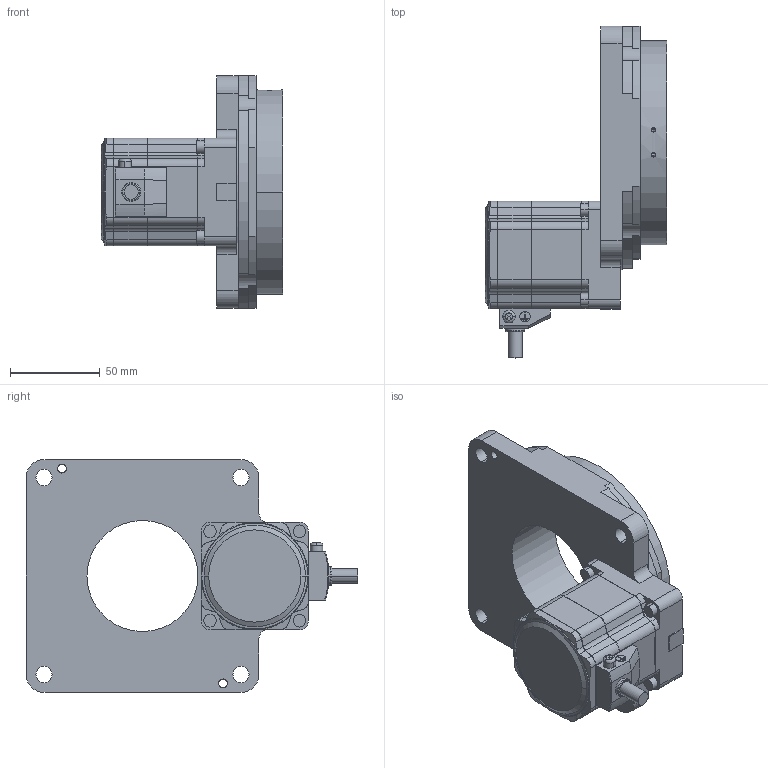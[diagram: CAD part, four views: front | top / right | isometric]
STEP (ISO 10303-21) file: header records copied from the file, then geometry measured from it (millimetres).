
FILE_DESCRIPTION( ( '' ), '1' );
FILE_NAME( 'Z:/14ＣＡＤ/01_CAD業務フォルダ/12_STEP書き出し/05_STEPファイル名の変更作業/02_ファイル名変換の作業場/■手動で書き出し_DG2/DG130R-ARAA-1(1)→D2855.stp', '2013-01-08T00:55:31', ( '' ), ( '' ), ' ', ' ', ' ' );
FILE_SCHEMA( ( 'CONFIG_CONTROL_DESIGN' ) );
Length unit declared in the file: millimetre
Products named in the file (2): 1; 2
Bounding box: 101.5 x 185.3 x 130 mm (x, y, z)
Volume: 604471 mm3; surface area: 90947 mm2
Topology: 2 solids, 2 shells, 426 faces, 1156 edges, 745 vertices
Faces by surface type: cylinder 184, plane 176, cone 46, torus 20
Entity records: 13859 total; most frequent: CARTESIAN_POINT 2849, DIRECTION 2341, ORIENTED_EDGE 2272, EDGE_CURVE 1136, AXIS2_PLACEMENT_3D 849, VERTEX_POINT 745, LINE 643, VECTOR 643
